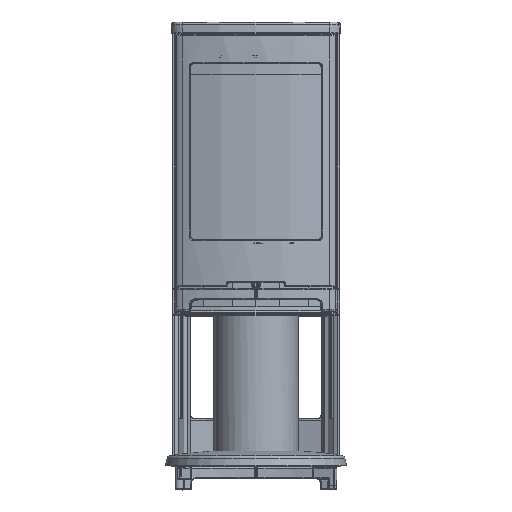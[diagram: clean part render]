
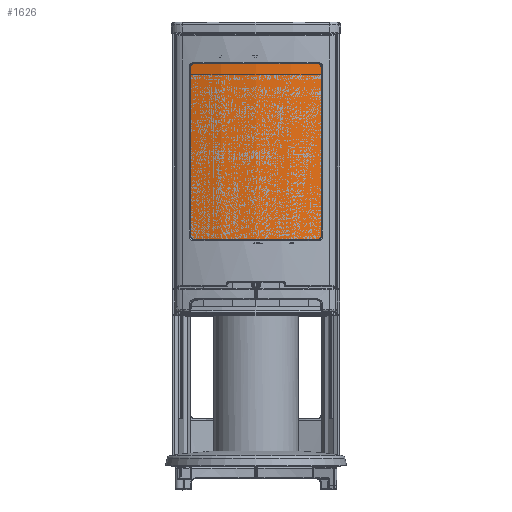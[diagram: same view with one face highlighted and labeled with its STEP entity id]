
A CAD part, front view. The second image highlights one B-rep face of the part: STEP entity #1626.
In plain terms, the highlighted cylindrical face has radius 585.5 mm (diameter 1171 mm), a partial arc.
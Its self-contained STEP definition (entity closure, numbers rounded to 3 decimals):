
#1626 = ADVANCED_FACE( '', ( #4387 ), #4388, .T. );
#4387 = FACE_OUTER_BOUND( '', #10537, .T. );
#4388 = CYLINDRICAL_SURFACE( '', #10538, 585.5 );
#10537 = EDGE_LOOP( '', ( #31229, #31230, #31231, #31232 ) );
#10538 = AXIS2_PLACEMENT_3D( '', #31233, #31234, #31235 );
#31229 = ORIENTED_EDGE( '', *, *, #41839, .F. );
#31230 = ORIENTED_EDGE( '', *, *, #41870, .F. );
#31231 = ORIENTED_EDGE( '', *, *, #41871, .T. );
#31232 = ORIENTED_EDGE( '', *, *, #41872, .T. );
#31233 = CARTESIAN_POINT( '', ( 0., 124.295, 551.5 ) );
#31234 = DIRECTION( '', ( 0., 0., -1. ) );
#31235 = DIRECTION( '', ( 1., 0., 0. ) );
#41839 = EDGE_CURVE( '', #46638, #46633, #46640, .T. );
#41870 = EDGE_CURVE( '', #46692, #46638, #46693, .T. );
#41871 = EDGE_CURVE( '', #46692, #46694, #46695, .T. );
#41872 = EDGE_CURVE( '', #46694, #46633, #46696, .T. );
#46633 = VERTEX_POINT( '', #57464 );
#46638 = VERTEX_POINT( '', #57470 );
#46640 = CIRCLE( '', #57473, 585.5 );
#46692 = VERTEX_POINT( '', #57822 );
#46693 = LINE( '', #57823, #57824 );
#46694 = VERTEX_POINT( '', #57825 );
#46695 = CIRCLE( '', #57826, 585.5 );
#46696 = LINE( '', #57827, #57828 );
#57464 = CARTESIAN_POINT( '', ( 185.475, -431.051, 1058.5 ) );
#57470 = CARTESIAN_POINT( '', ( -185.475, -431.051, 1058.5 ) );
#57473 = AXIS2_PLACEMENT_3D( '', #82859, #82860, #82861 );
#57822 = CARTESIAN_POINT( '', ( -185.475, -431.051, 551.5 ) );
#57823 = CARTESIAN_POINT( '', ( -185.475, -431.051, 551.5 ) );
#57824 = VECTOR( '', #82890, 1000. );
#57825 = CARTESIAN_POINT( '', ( 185.475, -431.051, 551.5 ) );
#57826 = AXIS2_PLACEMENT_3D( '', #82891, #82892, #82893 );
#57827 = CARTESIAN_POINT( '', ( 185.475, -431.051, 551.5 ) );
#57828 = VECTOR( '', #82894, 1000. );
#82859 = CARTESIAN_POINT( '', ( 0., 124.295, 1058.5 ) );
#82860 = DIRECTION( '', ( 0., 0., 1. ) );
#82861 = DIRECTION( '', ( 0.317, 0.948, 0. ) );
#82890 = DIRECTION( '', ( 0., 0., 1. ) );
#82891 = CARTESIAN_POINT( '', ( 0., 124.295, 551.5 ) );
#82892 = DIRECTION( '', ( 0., 0., 1. ) );
#82893 = DIRECTION( '', ( 0.317, 0.948, 0. ) );
#82894 = DIRECTION( '', ( 0., 0., 1. ) );
